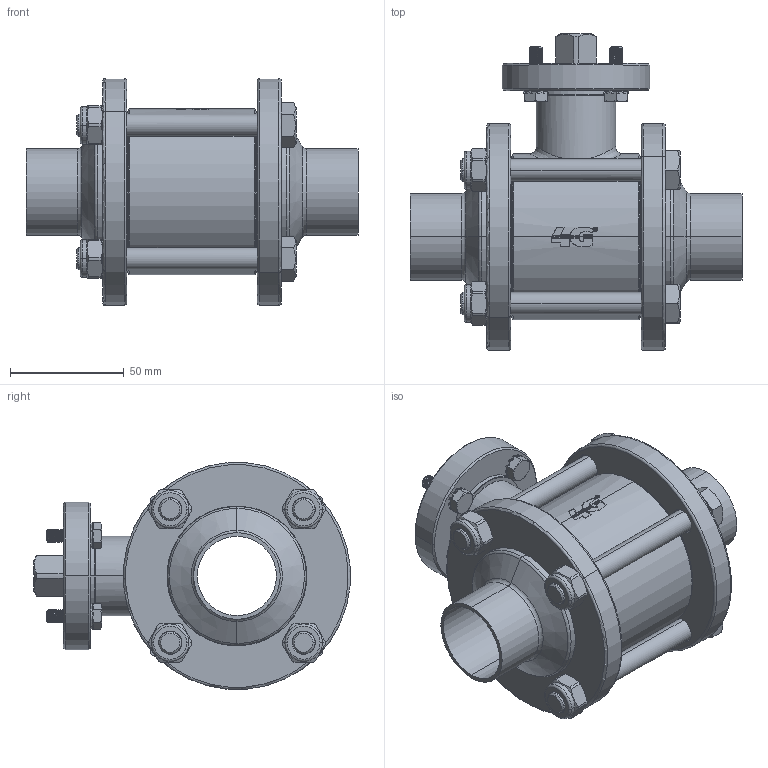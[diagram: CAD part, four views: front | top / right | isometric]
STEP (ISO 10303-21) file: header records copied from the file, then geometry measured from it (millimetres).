
FILE_DESCRIPTION((''),'2;1');
FILE_NAME('PARTE_VUOTA','2022-11-03T07:58:18',('alfio.taboni'),('CDM Tecnoconsulting'),'CREO PARAMETRIC BY PTC INC, 2020053','CREO PARAMETRIC BY PTC INC, 2020053','');
FILE_SCHEMA(('CONFIG_CONTROL_DESIGN','SHAPE_APPEARANCE_LAYERS_GROUPS'));
Products named in the file (1): PARTE_VUOTA
Bounding box: 146 x 139.13 x 99.64 mm (x, y, z)
Volume: 416514 mm3; surface area: 144918.6 mm2
Topology: 1 solids, 6 shells, 1595 faces, 4470 edges, 2818 vertices
Faces by surface type: cylinder 549, plane 516, cone 242, bspline 136, torus 92, extrusion 56, sphere 4
Entity records: 104104 total; most frequent: CARTESIAN_POINT 52207, ORIENTED_EDGE 8928, DIRECTION 6865, PRESENTATION_STYLE_ASSIGNMENT 4465, STYLED_ITEM 4465, CURVE_STYLE 4464, EDGE_CURVE 4464, VERTEX_POINT 2818
